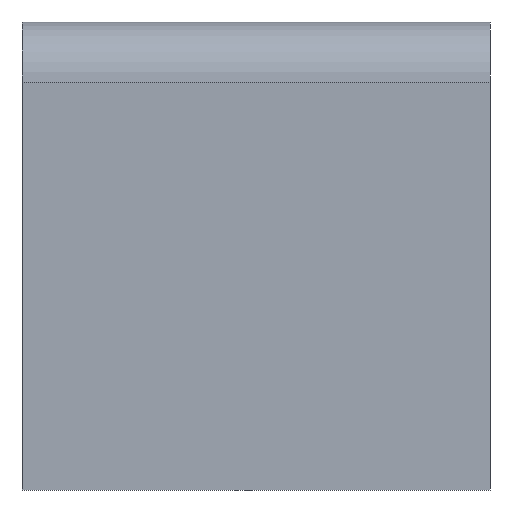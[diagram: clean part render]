
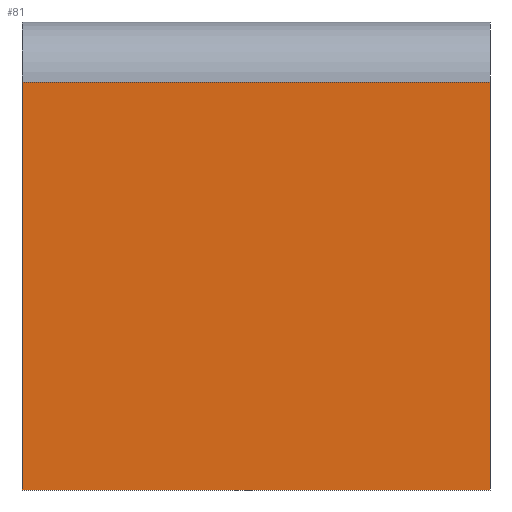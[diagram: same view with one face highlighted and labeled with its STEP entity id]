
A CAD part, front view. The second image highlights one B-rep face of the part: STEP entity #81.
In plain terms, the highlighted planar face has unit normal (0, -1, 0).
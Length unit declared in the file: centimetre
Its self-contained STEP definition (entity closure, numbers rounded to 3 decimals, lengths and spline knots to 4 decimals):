
#6 = VECTOR ( 'NONE', #148, 100. ) ;
#26 = PLANE ( 'NONE',  #111 ) ;
#49 = LINE ( 'NONE', #240, #6 ) ;
#59 = DIRECTION ( 'NONE',  ( 0., 1., 0. ) ) ;
#79 = VERTEX_POINT ( 'NONE', #128 ) ;
#81 = ADVANCED_FACE ( 'NONE', ( #120 ), #26, .F. ) ;
#98 = CARTESIAN_POINT ( 'NONE',  ( 0., 0., 0. ) ) ;
#110 = VERTEX_POINT ( 'NONE', #314 ) ;
#111 = AXIS2_PLACEMENT_3D ( 'NONE', #155, #59, #159 ) ;
#114 = DIRECTION ( 'NONE',  ( 0., 0., -1. ) ) ;
#120 = FACE_OUTER_BOUND ( 'NONE', #335, .T. ) ;
#128 = CARTESIAN_POINT ( 'NONE',  ( 1000., 0., 871.1609 ) ) ;
#140 = EDGE_CURVE ( 'NONE', #205, #264, #344, .T. ) ;
#148 = DIRECTION ( 'NONE',  ( 0., 0., -1. ) ) ;
#151 = VECTOR ( 'NONE', #226, 100. ) ;
#155 = CARTESIAN_POINT ( 'NONE',  ( 0., 0., 1000. ) ) ;
#159 = DIRECTION ( 'NONE',  ( 0., 0., 1. ) ) ;
#162 = VECTOR ( 'NONE', #114, 100. ) ;
#164 = ORIENTED_EDGE ( 'NONE', *, *, #195, .F. ) ;
#175 = ORIENTED_EDGE ( 'NONE', *, *, #299, .T. ) ;
#195 = EDGE_CURVE ( 'NONE', #79, #110, #49, .T. ) ;
#196 = DIRECTION ( 'NONE',  ( 1., 0., 0. ) ) ;
#205 = VERTEX_POINT ( 'NONE', #211 ) ;
#211 = CARTESIAN_POINT ( 'NONE',  ( 0., 0., 871.1609 ) ) ;
#220 = CARTESIAN_POINT ( 'NONE',  ( 0., 0., 1000. ) ) ;
#226 = DIRECTION ( 'NONE',  ( -1., 0., 0. ) ) ;
#229 = CARTESIAN_POINT ( 'NONE',  ( 0., 0., 0. ) ) ;
#240 = CARTESIAN_POINT ( 'NONE',  ( 1000., 0., 1000. ) ) ;
#241 = VECTOR ( 'NONE', #196, 100. ) ;
#249 = ORIENTED_EDGE ( 'NONE', *, *, #140, .T. ) ;
#262 = LINE ( 'NONE', #98, #241 ) ;
#264 = VERTEX_POINT ( 'NONE', #229 ) ;
#289 = EDGE_CURVE ( 'NONE', #264, #110, #262, .T. ) ;
#299 = EDGE_CURVE ( 'NONE', #79, #205, #380, .T. ) ;
#314 = CARTESIAN_POINT ( 'NONE',  ( 1000., 0., 0. ) ) ;
#335 = EDGE_LOOP ( 'NONE', ( #164, #175, #249, #359 ) ) ;
#344 = LINE ( 'NONE', #220, #162 ) ;
#359 = ORIENTED_EDGE ( 'NONE', *, *, #289, .T. ) ;
#380 = LINE ( 'NONE', #387, #151 ) ;
#387 = CARTESIAN_POINT ( 'NONE',  ( 0., 0., 871.1609 ) ) ;
